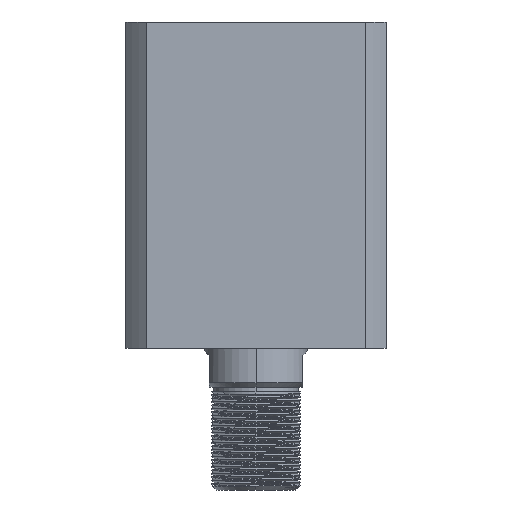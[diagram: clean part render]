
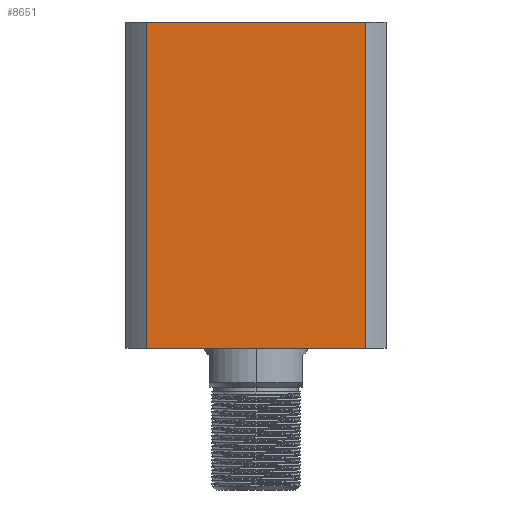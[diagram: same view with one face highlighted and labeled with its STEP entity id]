
A CAD part, front view. The second image highlights one B-rep face of the part: STEP entity #8651.
In plain terms, the highlighted planar face has unit normal (0, -1, 0) as drawn and (1, 0, 0) by its records, which use the part's own axes.
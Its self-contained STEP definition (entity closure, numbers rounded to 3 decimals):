
#391 = CARTESIAN_POINT ( 'NONE',  ( 57., 57., 0. ) ) ;
#927 = LINE ( 'NONE', #16775, #12611 ) ;
#975 = LINE ( 'NONE', #20014, #8992 ) ;
#1051 = EDGE_CURVE ( 'NONE', #1111, #14950, #975, .T. ) ;
#1111 = VERTEX_POINT ( 'NONE', #15769 ) ;
#1819 = ORIENTED_EDGE ( 'NONE', *, *, #19473, .F. ) ;
#1976 = DIRECTION ( 'NONE',  ( 0., 1., 0. ) ) ;
#3442 = VERTEX_POINT ( 'NONE', #6609 ) ;
#3485 = CARTESIAN_POINT ( 'NONE',  ( 57., 47.971, 143. ) ) ;
#5469 = VERTEX_POINT ( 'NONE', #14495 ) ;
#5973 = DIRECTION ( 'NONE',  ( 0., 1., 0. ) ) ;
#6108 = ORIENTED_EDGE ( 'NONE', *, *, #19071, .T. ) ;
#6609 = CARTESIAN_POINT ( 'NONE',  ( 57., -47.971, 0. ) ) ;
#7104 = FACE_OUTER_BOUND ( 'NONE', #9215, .T. ) ;
#8384 = VECTOR ( 'NONE', #16869, 1000. ) ;
#8651 = ADVANCED_FACE ( 'NONE', ( #7104 ), #17185, .F. ) ;
#8992 = VECTOR ( 'NONE', #5973, 1000. ) ;
#9215 = EDGE_LOOP ( 'NONE', ( #1819, #6108, #10364, #14520 ) ) ;
#10364 = ORIENTED_EDGE ( 'NONE', *, *, #13026, .F. ) ;
#10555 = DIRECTION ( 'NONE',  ( 0., 0., -1. ) ) ;
#10967 = DIRECTION ( 'NONE',  ( 0., -1., 0. ) ) ;
#12611 = VECTOR ( 'NONE', #10555, 1000. ) ;
#13026 = EDGE_CURVE ( 'NONE', #14950, #5469, #927, .T. ) ;
#14495 = CARTESIAN_POINT ( 'NONE',  ( 57., 47.971, 0. ) ) ;
#14520 = ORIENTED_EDGE ( 'NONE', *, *, #1051, .F. ) ;
#14950 = VERTEX_POINT ( 'NONE', #3485 ) ;
#15295 = CARTESIAN_POINT ( 'NONE',  ( 57., -47.971, -157. ) ) ;
#15346 = AXIS2_PLACEMENT_3D ( 'NONE', #18765, #20326, #10967 ) ;
#15496 = LINE ( 'NONE', #391, #19194 ) ;
#15769 = CARTESIAN_POINT ( 'NONE',  ( 57., -47.971, 143. ) ) ;
#16775 = CARTESIAN_POINT ( 'NONE',  ( 57., 47.971, -157. ) ) ;
#16869 = DIRECTION ( 'NONE',  ( 0., 0., 1. ) ) ;
#17185 = PLANE ( 'NONE',  #15346 ) ;
#17707 = LINE ( 'NONE', #15295, #8384 ) ;
#18765 = CARTESIAN_POINT ( 'NONE',  ( 57., 57., 143. ) ) ;
#19071 = EDGE_CURVE ( 'NONE', #3442, #5469, #15496, .T. ) ;
#19194 = VECTOR ( 'NONE', #1976, 1000. ) ;
#19473 = EDGE_CURVE ( 'NONE', #3442, #1111, #17707, .T. ) ;
#20014 = CARTESIAN_POINT ( 'NONE',  ( 57., 57., 143. ) ) ;
#20326 = DIRECTION ( 'NONE',  ( -1., 0., 0. ) ) ;
